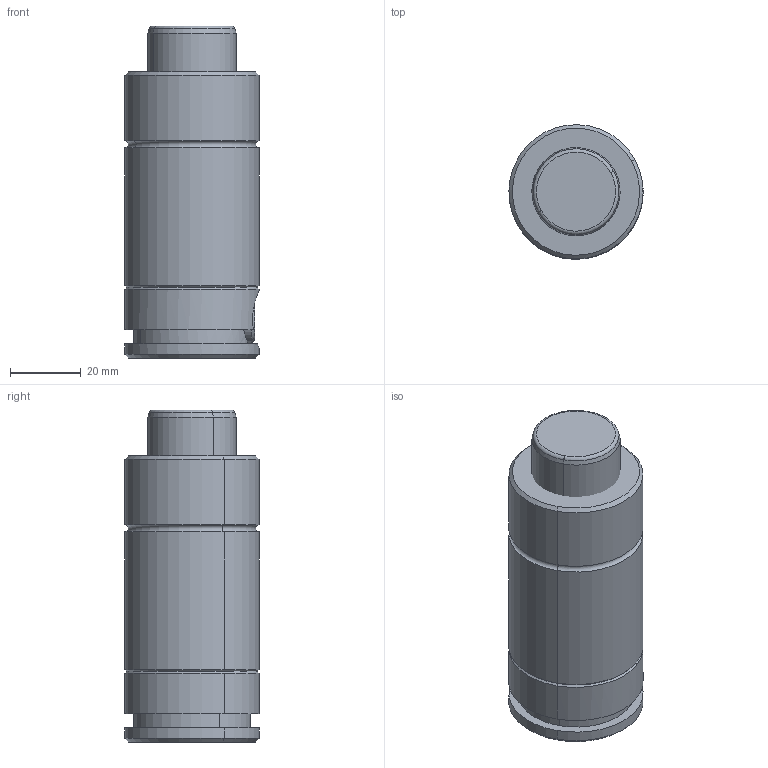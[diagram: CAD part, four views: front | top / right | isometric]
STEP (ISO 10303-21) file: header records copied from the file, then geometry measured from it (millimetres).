
FILE_DESCRIPTION(('CATIA V5 STEP Exchange'),'2;1');
FILE_NAME('W:\CATALOGO GENERAL 2018\FICHEROS CAD\003-TPH\TPH 850C\TPH 850x12C.stp','2017-10-30T10:29:03+00:00',('none'),('none'),'CATIA Version 5 Release 17 (IN-10)','CATIA V5 STEP AP203','none');
FILE_SCHEMA(('CONFIG_CONTROL_DESIGN'));
Length unit declared in the file: millimetre
Products named in the file (1): TPH 850x12C
Assembly tree (4 placements, depth 2):
  TPH 850x12C
    #56
    #969
    #1402
    #1744
Bounding box: 37.99 x 37.99 x 94 mm (x, y, z)
Volume: 135024.3 mm3; surface area: 24630.2 mm2
Topology: 4 solids, 4 shells, 139 faces, 294 edges, 176 vertices
Faces by surface type: cone 44, torus 36, cylinder 33, plane 26
Entity records: 3483 total; most frequent: CARTESIAN_POINT 646, ORIENTED_EDGE 572, DIRECTION 478, AXIS2_PLACEMENT_3D 287, EDGE_CURVE 286, CIRCLE 188, VERTEX_POINT 164, EDGE_LOOP 148
